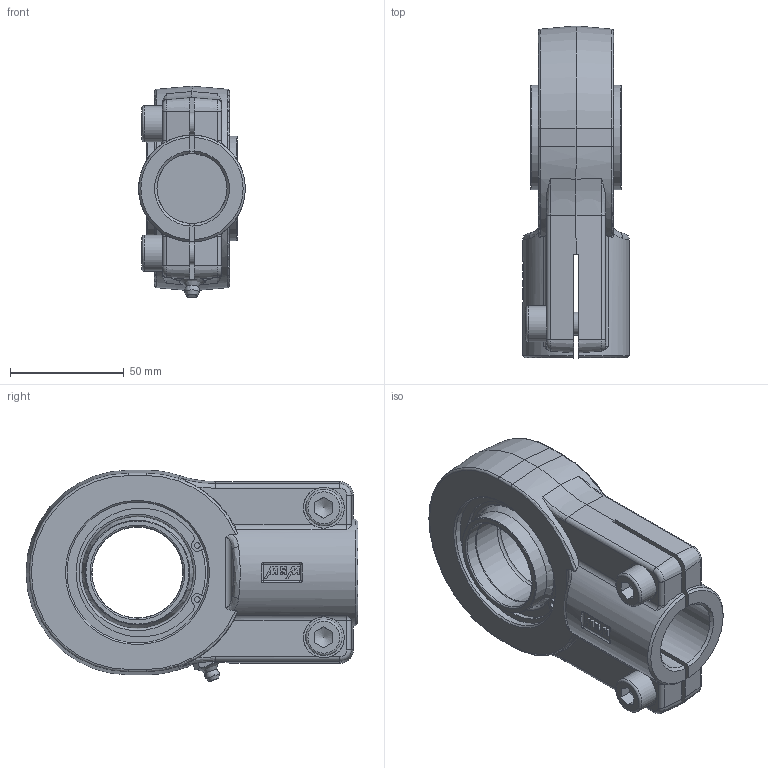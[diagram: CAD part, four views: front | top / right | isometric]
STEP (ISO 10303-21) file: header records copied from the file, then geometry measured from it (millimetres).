
FILE_DESCRIPTION((''),'2;1');
FILE_NAME('H:\WSW\Hydraulikgelenkköpfe\Aktuelle GK Zeichnungen andere Formate\WAPR..CE\WAPR..CE .STP\K-WAPR40CE.stp','2007-12-21T10:52:31',('oliver.joswig'),(''),'Autodesk Inventor 2008','Autodesk Inventor 2008','');
FILE_SCHEMA(('AUTOMOTIVE_DESIGN { 1 0 10303 214 1 1 1 1 }'));
Length unit declared in the file: millimetre
Products named in the file (7): K-WAPR40CE; GEEW_ES_AR mit Nut [Benennung=AR_GEEW40ES][Kugel_dk=26,5mm][Breite=22mm][Radius_r1s=1mm][Aussendurchmessser=31mm]; GEEW_ES_IR mit Nut [Benennung=IR40LO][Breite=40 mm][Kugel=26,5 mm][Bund_D=23 mm][Freid_b=5,7 mm][Freid_D=20,25 mm][Bohr=20 mm][Fase=45 grd][R_rs=0,6 mm]; F-WAPR40CE; DIN 71412  A  (Feingewinde) AM10 x 1 keg kurz; NF E 22-165 62x2; DIN EN ISO 4762  (Regelgewinde) M10 x 25
Assembly tree (8 placements, depth 2):
  K-WAPR40CE
    GEEW_ES_AR mit Nut [Benennung=AR_GEEW40ES][Kugel_dk=26,5mm][Breite=22mm][Radius_r1s=1mm][Aussendurchmessser=31mm]
    GEEW_ES_IR mit Nut [Benennung=IR40LO][Breite=40 mm][Kugel=26,5 mm][Bund_D=23 mm][Freid_b=5,7 mm][Freid_D=20,25 mm][Bohr=20 mm][Fase=45 grd][R_rs=0,6 mm]
    F-WAPR40CE
    DIN 71412  A  (Feingewinde) AM10 x 1 keg kurz
    NF E 22-165 62x2  x2
    DIN EN ISO 4762  (Regelgewinde) M10 x 25  x2
Bounding box: 47 x 146 x 93.07 mm (x, y, z)
Volume: 273464.8 mm3; surface area: 78621 mm2
Topology: 8 solids, 8 shells, 292 faces, 718 edges, 452 vertices
Faces by surface type: plane 114, cylinder 70, cone 42, bspline 42, torus 21, sphere 3
Full cylindrical faces by diameter (mm): 1.912 x2, 2.5 x4, 3.185 x2, 5 x1, 10 x3, 16 x2, 34 x1, 40 x2, 40.5 x2, 46 x2, 62 x5, 65 x2
Entity records: 10395 total; most frequent: CARTESIAN_POINT 4429, DIRECTION 1160, ORIENTED_EDGE 1156, EDGE_CURVE 578, AXIS2_PLACEMENT_3D 466, VERTEX_POINT 396, EDGE_LOOP 366, FACE_OUTER_BOUND 266
